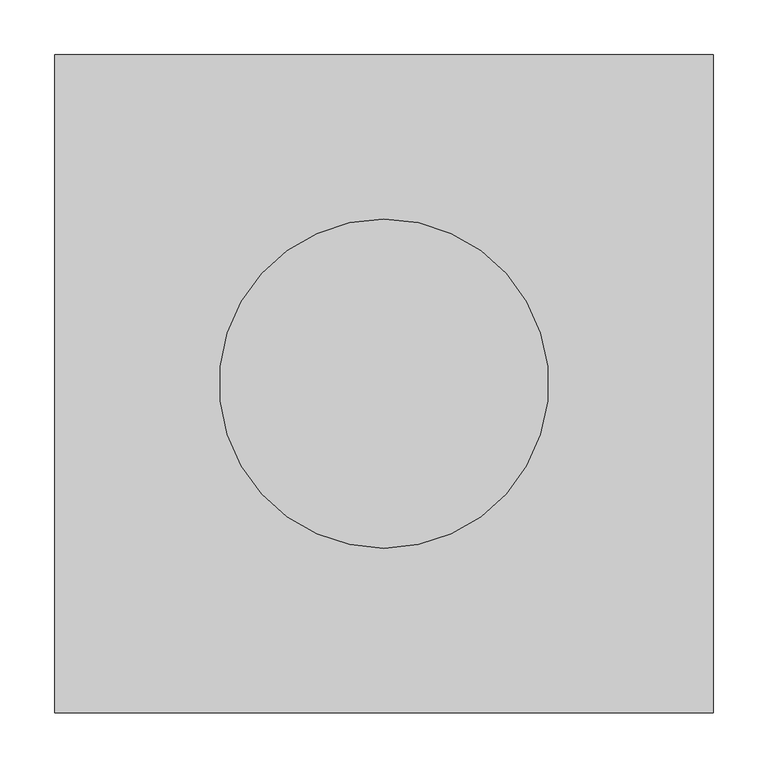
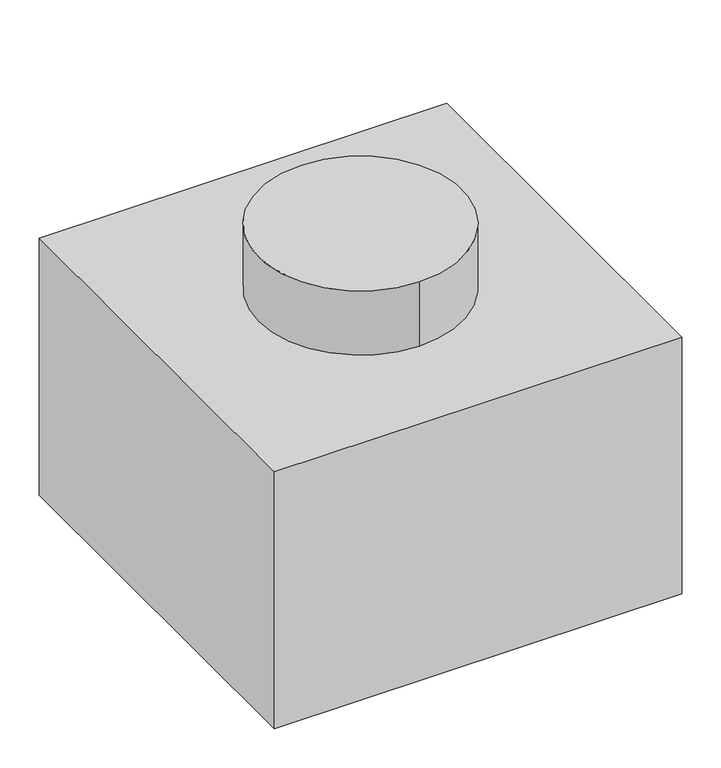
"""IFC4 building model written with IfcOpenShell, lengths in millimetres: duct fitting geometry, BL_Адаптер-СТ_КР : BL_Адаптер-СТ_КР."""

from ifc_helpers import new_model, si_unit, point, frame, frame_2d, origin, place, context, project, spatial, polyline, circle_curve, trimmed, segment, composite_curve, outline, extrude, source, transform, mapped, element, save


def duct_fitting_a832e96c(model_context):
    return source(origin(), model_context, "Body", "SweptSolid", [
        extrude(outline(composite_curve([segment(trimmed(circle_curve(frame_2d((300.0, 0.0)), 150.0), [point((300.0, 150.0))], [point((300.0, -150.0))], False, "CARTESIAN"), True, "CONTINUOUS"), segment(trimmed(circle_curve(frame_2d((300.0, 0.0)), 150.0), [point((300.0, -150.0))], [point((300.0, 150.0))], False, "CARTESIAN"), True, "CONTINUOUS")], self_intersect=False)), frame((0.0, 0.0, 200.0), z_axis=(0.0, 0.0, 1.0), x_axis=(1.0, 0.0, 0.0)), (0.0, 0.0, 1.0), 100.0),
        extrude(outline(polyline([(0.0, -300.0), (0.0, 300.0), (600.0, 300.0), (600.0, -300.0), (0.0, -300.0)])), frame((0.0, 0.0, -200.0), z_axis=(0.0, 0.0, 1.0), x_axis=(1.0, 0.0, 0.0)), (0.0, 0.0, 1.0), 400.0),
    ])


if __name__ == "__main__":
    model = new_model("IFC4")
    model_context = context("Model", 3, world=origin())
    ifc_project = project(units=[si_unit("LENGTHUNIT", "METRE", prefix="MILLI")], contexts=[model_context])
    site = spatial("IfcSite", under=ifc_project)
    building = spatial("IfcBuilding", under=site)
    placement = place(None, origin())
    duct_fitting_shape = duct_fitting_a832e96c(model_context)
    element("IfcDuctFitting", 1, ObjectType="BL_Адаптер-СТ_КР : BL_Адаптер-СТ_КР", at=placement, inside=building, context=model_context, shape_type="MappedRepresentation", body=[
        mapped(duct_fitting_shape, transform((0.0, 0.0, 0.0), x_axis=(1.0, 0.0, 0.0), y_axis=(0.0, 1.0, 0.0), z_axis=(0.0, 0.0, 1.0))),
    ])
    save(model, "model.ifc")
